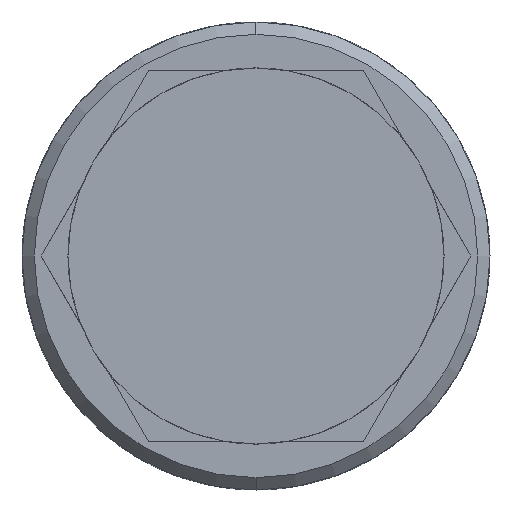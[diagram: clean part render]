
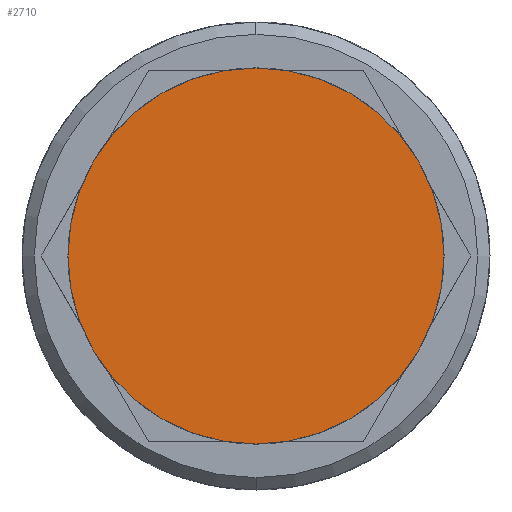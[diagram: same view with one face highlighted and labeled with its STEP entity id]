
A CAD part, left-side view. The second image highlights one B-rep face of the part: STEP entity #2710.
In plain terms, the highlighted planar face has unit normal (-1, 0, 0).
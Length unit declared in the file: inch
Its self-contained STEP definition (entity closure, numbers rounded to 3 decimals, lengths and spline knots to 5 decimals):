
#101 = CARTESIAN_POINT ( 'NONE',  ( -3.204, 0., 0. ) ) ;
#116 = CARTESIAN_POINT ( 'NONE',  ( -3.204, 0., 0.7635 ) ) ;
#133 = CARTESIAN_POINT ( 'NONE',  ( -3.204, 0., -0.7635 ) ) ;
#486 = CARTESIAN_POINT ( 'NONE',  ( -3.204, 0., 0. ) ) ;
#487 = DIRECTION ( 'NONE',  ( 1., 0., 0. ) ) ;
#489 = DIRECTION ( 'NONE',  ( 1., 0., 0. ) ) ;
#503 = DIRECTION ( 'NONE',  ( 0., 0., -1. ) ) ;
#539 = DIRECTION ( 'NONE',  ( 0., 0., -1. ) ) ;
#744 = DIRECTION ( 'NONE',  ( -1., 0., 0. ) ) ;
#926 = PLANE ( 'NONE',  #1686 ) ;
#1025 = DIRECTION ( 'NONE',  ( 0., 0., 1. ) ) ;
#1048 = CARTESIAN_POINT ( 'NONE',  ( -3.204, 0.7635, 0. ) ) ;
#1396 = EDGE_CURVE ( 'NONE', #1822, #2350, #2077, .T. ) ;
#1452 = AXIS2_PLACEMENT_3D ( 'NONE', #486, #489, #539 ) ;
#1469 = AXIS2_PLACEMENT_3D ( 'NONE', #101, #487, #503 ) ;
#1632 = EDGE_CURVE ( 'NONE', #2350, #1822, #2161, .T. ) ;
#1686 = AXIS2_PLACEMENT_3D ( 'NONE', #1048, #744, #1025 ) ;
#1797 = FACE_OUTER_BOUND ( 'NONE', #2818, .T. ) ;
#1822 = VERTEX_POINT ( 'NONE', #133 ) ;
#2051 = ORIENTED_EDGE ( 'NONE', *, *, #1632, .F. ) ;
#2077 = CIRCLE ( 'NONE', #1452, 0.7635 ) ;
#2161 = CIRCLE ( 'NONE', #1469, 0.7635 ) ;
#2350 = VERTEX_POINT ( 'NONE', #116 ) ;
#2710 = ADVANCED_FACE ( 'NONE', ( #1797 ), #926, .T. ) ;
#2818 = EDGE_LOOP ( 'NONE', ( #2974, #2051 ) ) ;
#2974 = ORIENTED_EDGE ( 'NONE', *, *, #1396, .F. ) ;
